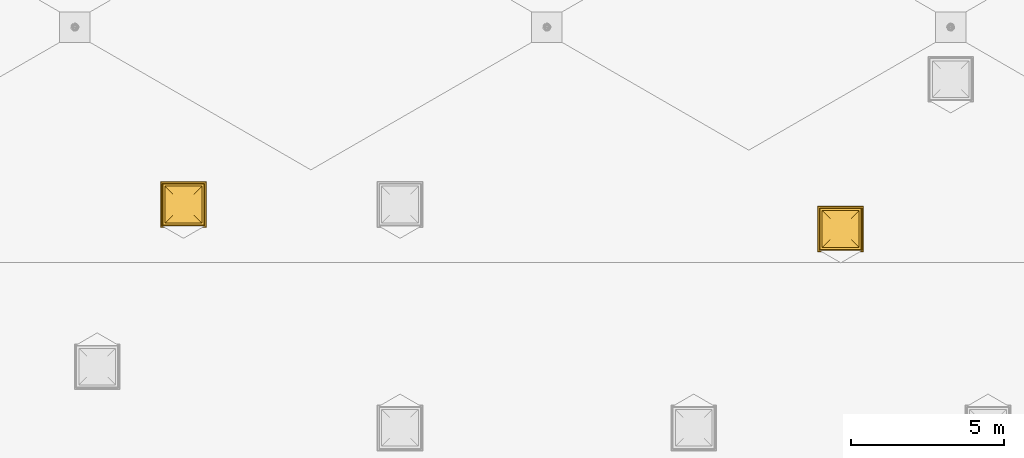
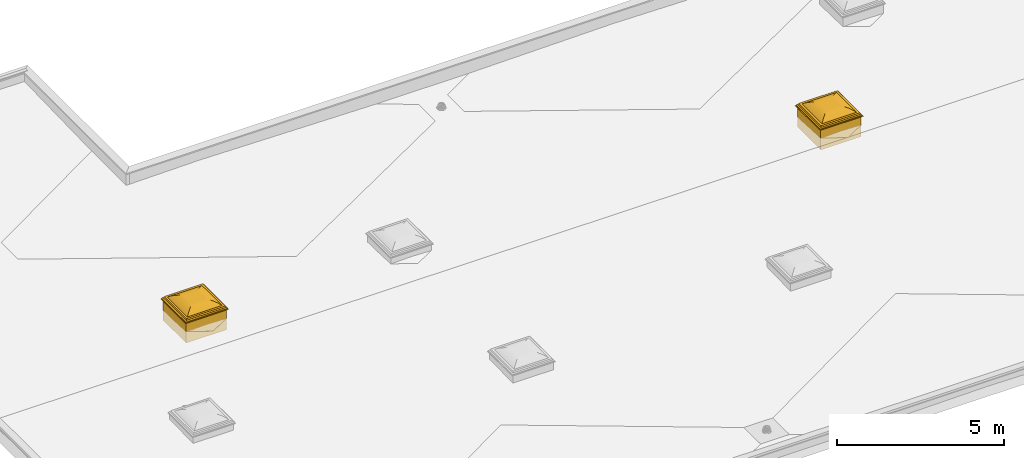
# One storey, part 4 of 5: 2 windows.
"""IFC2X3 building model written with IfcOpenShell, lengths in millimetres."""

from ifc_helpers import new_model, entity, si_unit, converted_unit, derived_unit, direction, frame, origin, place, context, subcontext, project, spatial, faceted_brep, source, transform, mapped, material, material_list, type_object, type_shapes, element, save


model = new_model("IFC2X3")

# Units and contexts
model_context = context("Model", 3, precision=0.01, world=origin(), true_north=direction((6.12303176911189e-17, 1.0)))
body_context = subcontext(model_context, "Body", "Model", "MODEL_VIEW")
ifc_project = project(units=[si_unit("LENGTHUNIT", "METRE", prefix="MILLI"), si_unit("AREAUNIT", "SQUARE_METRE"), si_unit("VOLUMEUNIT", "CUBIC_METRE"), converted_unit("PLANEANGLEUNIT", "DEGREE", entity("IfcRatioMeasure", 0.0174532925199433), si_unit("PLANEANGLEUNIT", "RADIAN"), dimensions=[0, 0, 0, 0, 0, 0, 0]), si_unit("MASSUNIT", "GRAM", prefix="KILO"), derived_unit("MASSDENSITYUNIT", [(si_unit("MASSUNIT", "GRAM", prefix="KILO"), 1), (si_unit("LENGTHUNIT", "METRE"), -3)]), si_unit("TIMEUNIT", "SECOND"), si_unit("FREQUENCYUNIT", "HERTZ"), si_unit("THERMODYNAMICTEMPERATUREUNIT", "DEGREE_CELSIUS"), derived_unit("THERMALTRANSMITTANCEUNIT", [(si_unit("MASSUNIT", "GRAM", prefix="KILO"), 1), (si_unit("THERMODYNAMICTEMPERATUREUNIT", "KELVIN"), -1), (si_unit("TIMEUNIT", "SECOND"), -3)]), derived_unit("VOLUMETRICFLOWRATEUNIT", [(si_unit("LENGTHUNIT", "METRE"), 3), (si_unit("TIMEUNIT", "SECOND"), -1)]), si_unit("ELECTRICCURRENTUNIT", "AMPERE"), si_unit("ELECTRICVOLTAGEUNIT", "VOLT"), si_unit("POWERUNIT", "WATT"), si_unit("FORCEUNIT", "NEWTON", prefix="KILO"), si_unit("ILLUMINANCEUNIT", "LUX"), si_unit("LUMINOUSFLUXUNIT", "LUMEN"), si_unit("LUMINOUSINTENSITYUNIT", "CANDELA"), derived_unit("USERDEFINED", [(si_unit("MASSUNIT", "GRAM", prefix="KILO"), -1), (si_unit("LENGTHUNIT", "METRE"), -2), (si_unit("TIMEUNIT", "SECOND"), 3), (si_unit("LUMINOUSFLUXUNIT", "LUMEN"), 1)]), derived_unit("LINEARVELOCITYUNIT", [(si_unit("LENGTHUNIT", "METRE"), 1), (si_unit("TIMEUNIT", "SECOND"), -1)]), si_unit("PRESSUREUNIT", "PASCAL"), derived_unit("USERDEFINED", [(si_unit("LENGTHUNIT", "METRE"), -2), (si_unit("MASSUNIT", "GRAM", prefix="KILO"), 1), (si_unit("TIMEUNIT", "SECOND"), -2)])], contexts=[model_context])

# Site, building, storey
site_placement = place(None, origin())
site = spatial("IfcSite", under=ifc_project, at=site_placement, Name="Default", CompositionType="ELEMENT")
building_placement = place(site_placement, origin())
building = spatial("IfcBuilding", under=site, at=building_placement, CompositionType="ELEMENT")
storey_placement = place(building_placement, frame((0.0, 0.0, 8000.0)))
storey = spatial("IfcBuildingStorey", under=building, at=storey_placement, Name="KATUS", CompositionType="ELEMENT", Elevation=8000.0)

# Windows
ifc_material_1 = material(Name="akrüül-klaas, 3-kihiline")
ifc_material_2 = material(Name="soojustatud teras-jalam")
ifc_material_list_1 = material_list([ifc_material_1, ifc_material_2])
ifc_material_list_2 = material_list([ifc_material_1, ifc_material_2])
window_style_1 = type_object("IfcWindowStyle", Name="SL02_suitsuluuk 1200x1200 katuselepääs", ConstructionType="NOTDEFINED", OperationType="NOTDEFINED", ParameterTakesPrecedence=False, Sizeable=False, material=ifc_material_list_2)
shared_shape_1 = source(origin(), body_context, "Body", "Brep", [
    faceted_brep([(281.700000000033, -281.700000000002, 779.910168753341), (281.700000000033, -281.700000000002, 773.560168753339), (281.700000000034, 281.700000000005, 773.560168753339), (281.700000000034, 281.700000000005, 779.910168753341), (-281.699999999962, -281.700000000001, 779.910168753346), (-281.699999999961, 281.700000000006, 779.910168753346), (-281.699999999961, 281.700000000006, 773.560168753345), (-281.699999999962, -281.700000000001, 773.560168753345)], [[[0, 1, 2, 3]], [[4, 5, 6, 7]], [[1, 0, 4, 7]], [[2, 1, 7, 6]], [[3, 2, 6, 5]], [[0, 3, 5, 4]]]),
    faceted_brep([(-599.19999999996, -599.2, 609.927298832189), (-599.19999999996, -599.199999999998, 635.0), (-599.19999999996, 599.200000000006, 635.0), (-599.19999999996, 599.200000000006, 609.927298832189), (-281.699999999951, -281.699999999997, 779.910168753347), (-281.69999999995, 281.699999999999, 779.910168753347), (-350.823937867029, 350.823937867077, 765.296429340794), (-350.823937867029, -350.823937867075, 765.296429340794), (-417.927749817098, 417.927749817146, 743.188544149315), (-417.927749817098, -417.927749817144, 743.188544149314), (-482.201579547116, 482.201579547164, 713.853326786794), (-482.201579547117, -482.201579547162, 713.853326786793), (-542.869724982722, 542.86972498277, 677.64481542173), (-542.869724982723, -542.869724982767, 677.644815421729), (599.200000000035, 599.200000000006, 635.0), (599.200000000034, 599.200000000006, 609.927298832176), (281.700000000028, 281.699999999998, 779.910168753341), (350.823937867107, 350.823937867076, 765.296429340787), (417.927749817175, 417.927749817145, 743.188544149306), (482.201579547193, 482.201579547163, 713.853326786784), (542.869724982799, 542.869724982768, 677.644815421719), (599.200000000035, -599.2, 635.0), (599.200000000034, -599.2, 609.927298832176), (281.700000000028, -281.699999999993, 779.910168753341), (350.823937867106, -350.823937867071, 765.296429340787), (417.927749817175, -417.92774981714, 743.188544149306), (482.201579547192, -482.201579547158, 713.853326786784), (542.869724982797, -542.869724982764, 677.644815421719), (-593.576133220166, -593.576133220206, 633.360547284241), (-593.576133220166, -593.576133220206, 609.927298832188), (-593.576133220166, 593.576133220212, 609.927298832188), (-593.576133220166, 593.576133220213, 633.360547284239), (-537.988117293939, -537.98811729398, 674.552576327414), (-537.988117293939, 537.988117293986, 674.552576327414), (-478.296763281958, -478.296763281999, 709.534757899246), (-478.296763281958, 478.296763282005, 709.534757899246), (-415.192902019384, 415.192902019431, 737.902229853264), (-415.192902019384, -415.192902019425, 737.902229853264), (-349.40685859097, -349.406858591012, 759.326684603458), (-349.40685859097, 349.406858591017, 759.326684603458), (-281.699999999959, -281.700000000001, 773.560168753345), (-281.699999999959, 281.700000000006, 773.560168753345), (593.57613322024, 593.576133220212, 609.927298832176), (593.576133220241, 593.576133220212, 633.360547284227), (537.988117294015, 537.988117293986, 674.552576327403), (478.296763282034, 478.296763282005, 709.534757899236), (415.192902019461, 415.192902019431, 737.902229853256), (349.406858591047, 349.406858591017, 759.326684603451), (281.700000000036, 281.700000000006, 773.560168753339), (593.57613322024, -593.576133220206, 609.927298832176), (593.576133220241, -593.576133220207, 633.360547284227), (537.988117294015, -537.98811729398, 674.552576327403), (478.296763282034, -478.296763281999, 709.534757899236), (415.192902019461, -415.192902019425, 737.902229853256), (349.406858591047, -349.406858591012, 759.326684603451), (281.700000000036, -281.700000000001, 773.560168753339)], [[[0, 1, 2, 3]], [[4, 5, 6, 7]], [[7, 6, 8, 9]], [[8, 10, 11, 9]], [[11, 10, 12, 13]], [[13, 12, 2, 1]], [[3, 2, 14, 15]], [[5, 16, 17, 6]], [[6, 17, 18, 8]], [[18, 19, 10, 8]], [[10, 19, 20, 12]], [[12, 20, 14, 2]], [[15, 14, 21, 22]], [[16, 23, 24, 17]], [[17, 24, 25, 18]], [[25, 26, 19, 18]], [[19, 26, 27, 20]], [[20, 27, 21, 14]], [[22, 21, 1, 0]], [[23, 4, 7, 24]], [[24, 7, 9, 25]], [[9, 11, 26, 25]], [[26, 11, 13, 27]], [[27, 13, 1, 21]], [[28, 29, 30, 31]], [[32, 28, 31, 33]], [[34, 32, 33, 35]], [[35, 36, 37, 34]], [[38, 37, 36, 39]], [[40, 38, 39, 41]], [[4, 40, 41, 5]], [[31, 30, 42, 43]], [[33, 31, 43, 44]], [[35, 33, 44, 45]], [[45, 46, 36, 35]], [[39, 36, 46, 47]], [[41, 39, 47, 48]], [[5, 41, 48, 16]], [[43, 42, 49, 50]], [[44, 43, 50, 51]], [[45, 44, 51, 52]], [[52, 53, 46, 45]], [[47, 46, 53, 54]], [[48, 47, 54, 55]], [[16, 48, 55, 23]], [[22, 49, 42]], [[49, 22, 29]], [[42, 15, 22]], [[0, 29, 22]], [[29, 0, 30]], [[3, 30, 0]], [[30, 3, 15]], [[15, 42, 30]], [[50, 49, 29, 28]], [[51, 50, 28, 32]], [[52, 51, 32, 34]], [[34, 37, 53, 52]], [[54, 53, 37, 38]], [[55, 54, 38, 40]], [[23, 55, 40, 4]]]),
    faceted_brep([(695.200000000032, 695.200000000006, 593.0), (670.951288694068, 670.951288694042, 635.0), (670.951288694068, -670.951288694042, 635.0), (695.200000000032, -695.200000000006, 593.0), (655.200000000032, 655.200000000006, 565.0), (655.200000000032, 655.200000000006, 593.0), (655.200000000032, -655.200000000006, 593.0), (655.200000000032, -655.200000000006, 565.0), (730.200000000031, 730.200000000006, 542.0), (730.200000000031, 730.200000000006, 565.0), (730.200000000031, -730.200000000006, 565.0), (730.200000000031, -730.200000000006, 542.0), (748.221344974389, 748.221344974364, 529.381318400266), (748.221344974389, -748.221344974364, 529.381318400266), (746.989806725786, 746.989806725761, 528.149780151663), (746.989806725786, -746.989806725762, 528.149780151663), (727.20964285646, 727.209642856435, 542.0), (727.20964285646, -727.209642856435, 542.0), (699.200000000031, 699.200000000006, 525.0), (699.200000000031, 699.200000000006, 542.0), (699.200000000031, -699.200000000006, 542.0), (699.200000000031, -699.200000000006, 525.0), (599.200000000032, 599.200000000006, 635.0), (599.200000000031, 599.200000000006, 525.0), (599.200000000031, -599.200000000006, 525.0), (599.200000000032, -599.200000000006, 635.0), (-670.951288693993, -670.951288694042, 635.0), (-695.199999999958, -695.200000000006, 593.0), (-655.199999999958, -655.200000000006, 593.0), (-655.199999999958, -655.200000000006, 565.0), (-730.199999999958, -730.200000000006, 565.0), (-730.199999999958, -730.200000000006, 542.0), (-748.221344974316, -748.221344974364, 529.381318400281), (-746.989806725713, -746.989806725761, 528.149780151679), (-727.209642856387, -727.209642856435, 542.0), (-699.199999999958, -699.200000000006, 542.0), (-699.199999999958, -699.200000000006, 525.0), (-599.199999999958, -599.200000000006, 525.0), (-599.199999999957, -599.200000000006, 635.0), (-670.951288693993, 670.951288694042, 635.0), (-695.199999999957, 695.200000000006, 593.0), (-655.199999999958, 655.200000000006, 593.0), (-655.199999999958, 655.200000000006, 565.0), (-730.199999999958, 730.200000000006, 565.0), (-730.199999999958, 730.200000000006, 542.0), (-748.221344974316, 748.221344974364, 529.381318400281), (-746.989806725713, 746.989806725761, 528.149780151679), (-727.209642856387, 727.209642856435, 542.0), (-699.199999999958, 699.200000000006, 542.0), (-699.199999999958, 699.200000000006, 525.0), (-599.199999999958, 599.200000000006, 525.0), (-599.199999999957, 599.200000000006, 635.0)], [[[0, 1, 2, 3]], [[4, 5, 6, 7]], [[8, 9, 10, 11]], [[12, 8, 11, 13]], [[14, 12, 13, 15]], [[16, 14, 15, 17]], [[18, 19, 20, 21]], [[22, 23, 24, 25]], [[3, 2, 26, 27]], [[7, 6, 28, 29]], [[11, 10, 30, 31]], [[13, 11, 31, 32]], [[15, 13, 32, 33]], [[17, 15, 33, 34]], [[21, 20, 35, 36]], [[25, 24, 37, 38]], [[27, 26, 39, 40]], [[29, 28, 41, 42]], [[31, 30, 43, 44]], [[32, 31, 44, 45]], [[33, 32, 45, 46]], [[34, 33, 46, 47]], [[36, 35, 48, 49]], [[38, 37, 50, 51]], [[25, 38, 51, 22], [1, 39, 26, 2]], [[40, 39, 1, 0]], [[3, 27, 40, 0], [5, 41, 28, 6]], [[42, 41, 5, 4]], [[7, 29, 42, 4], [9, 43, 30, 10]], [[44, 43, 9, 8]], [[45, 44, 8, 12]], [[46, 45, 12, 14]], [[47, 46, 14, 16]], [[17, 34, 47, 16], [19, 48, 35, 20]], [[49, 48, 19, 18]], [[21, 36, 49, 18], [23, 50, 37, 24]], [[51, 50, 23, 22]]], outer=[[True], [True], [True], [True], [True], [True], [True], [True], [True], [True], [True], [True], [True], [True], [True], [True], [True], [True], [True], [True], [True], [True], [True], [True], [False, True], [True], [True, False], [True], [False, True], [True], [True], [True], [True], [True, False], [True], [True, False], [True]]),
    faceted_brep([(-600.0, 600.0, 525.0), (-600.0, 600.0, -225.0), (600.0, 600.0, -225.0), (600.0, 600.0, 525.0), (600.0, -600.0, -225.0), (600.0, -600.0, 525.0), (-600.0, -600.0, -225.0), (-600.0, -600.0, 525.0), (700.0, 700.0, -225.0), (700.0, -700.0, -225.0), (-700.0, -700.0, -225.0), (-700.0, 700.0, -225.0), (-700.0, 700.0, 525.0), (700.0, 700.0, 525.0), (700.0, -700.0, 525.0), (-700.0, -700.0, 525.0)], [[[0, 1, 2, 3]], [[3, 2, 4, 5]], [[5, 4, 6, 7]], [[7, 6, 1, 0]], [[1, 6, 4, 2], [8, 9, 10, 11]], [[11, 12, 13, 8]], [[8, 13, 14, 9]], [[9, 14, 15, 10]], [[3, 5, 7, 0], [12, 15, 14, 13]], [[10, 15, 12, 11]]], outer=[[True], [True], [True], [True], [False, True], [True], [True], [True], [False, True], [True]]),
])
type_shapes(window_style_1, [shared_shape_1])
window_1_placement = place(storey_placement, frame((29279.9978270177, 14000.0, 220.0)))
element("IfcWindow", 1, at=window_1_placement, inside=storey, type_object=window_style_1, material=ifc_material_list_1, Name="Suitsueemaldusluuk:SL02_suitsuluuk 1200x1200 katuselepääs", ObjectType="SL02_suitsuluuk 1200x1200 katuselepääs", OverallHeight=1311.0999999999, OverallWidth=1496.44268994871, context=body_context, shape_type="MappedRepresentation", body=[
    mapped(shared_shape_1, transform((0.0, 0.0, 0.0), scale=1.0)),
])
ifc_material_list_3 = material_list([ifc_material_1, ifc_material_2])
ifc_material_list_4 = material_list([ifc_material_1, ifc_material_2])
window_style_2 = type_object("IfcWindowStyle", Name="SL01_suitsuluuk 1200x1200", ConstructionType="NOTDEFINED", OperationType="NOTDEFINED", ParameterTakesPrecedence=False, Sizeable=False, material=ifc_material_list_4)
shared_shape_2 = source(origin(), body_context, "Body", "Brep", [
    faceted_brep([(281.700000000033, -281.700000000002, 754.910168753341), (281.700000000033, -281.700000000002, 748.560168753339), (281.700000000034, 281.700000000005, 748.560168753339), (281.700000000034, 281.700000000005, 754.910168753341), (-281.699999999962, -281.700000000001, 754.910168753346), (-281.699999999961, 281.700000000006, 754.910168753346), (-281.699999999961, 281.700000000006, 748.560168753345), (-281.699999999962, -281.700000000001, 748.560168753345)], [[[0, 1, 2, 3]], [[4, 5, 6, 7]], [[1, 0, 4, 7]], [[2, 1, 7, 6]], [[3, 2, 6, 5]], [[0, 3, 5, 4]]]),
    faceted_brep([(-599.19999999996, -599.2, 584.927298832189), (-599.19999999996, -599.199999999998, 610.0), (-599.19999999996, 599.200000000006, 610.0), (-599.19999999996, 599.200000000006, 584.927298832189), (-281.699999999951, -281.699999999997, 754.910168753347), (-281.69999999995, 281.699999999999, 754.910168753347), (-350.823937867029, 350.823937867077, 740.296429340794), (-350.823937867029, -350.823937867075, 740.296429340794), (-417.927749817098, 417.927749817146, 718.188544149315), (-417.927749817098, -417.927749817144, 718.188544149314), (-482.201579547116, 482.201579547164, 688.853326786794), (-482.201579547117, -482.201579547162, 688.853326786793), (-542.869724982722, 542.86972498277, 652.64481542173), (-542.869724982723, -542.869724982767, 652.644815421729), (599.200000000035, 599.200000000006, 610.0), (599.200000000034, 599.200000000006, 584.927298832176), (281.700000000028, 281.699999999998, 754.910168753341), (350.823937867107, 350.823937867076, 740.296429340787), (417.927749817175, 417.927749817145, 718.188544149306), (482.201579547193, 482.201579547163, 688.853326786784), (542.869724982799, 542.869724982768, 652.644815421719), (599.200000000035, -599.2, 610.0), (599.200000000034, -599.2, 584.927298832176), (281.700000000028, -281.699999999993, 754.910168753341), (350.823937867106, -350.823937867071, 740.296429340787), (417.927749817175, -417.92774981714, 718.188544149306), (482.201579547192, -482.201579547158, 688.853326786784), (542.869724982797, -542.869724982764, 652.644815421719), (-593.576133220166, -593.576133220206, 608.360547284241), (-593.576133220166, -593.576133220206, 584.927298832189), (-593.576133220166, 593.576133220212, 584.927298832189), (-593.576133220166, 593.576133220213, 608.360547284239), (-537.988117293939, -537.98811729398, 649.552576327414), (-537.988117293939, 537.988117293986, 649.552576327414), (-478.296763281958, -478.296763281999, 684.534757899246), (-478.296763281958, 478.296763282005, 684.534757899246), (-415.192902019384, 415.192902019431, 712.902229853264), (-415.192902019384, -415.192902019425, 712.902229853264), (-349.40685859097, -349.406858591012, 734.326684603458), (-349.40685859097, 349.406858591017, 734.326684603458), (-281.699999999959, -281.700000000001, 748.560168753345), (-281.699999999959, 281.700000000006, 748.560168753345), (593.57613322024, 593.576133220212, 584.927298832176), (593.576133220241, 593.576133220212, 608.360547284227), (537.988117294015, 537.988117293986, 649.552576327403), (478.296763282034, 478.296763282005, 684.534757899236), (415.192902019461, 415.192902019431, 712.902229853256), (349.406858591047, 349.406858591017, 734.326684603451), (281.700000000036, 281.700000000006, 748.560168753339), (593.57613322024, -593.576133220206, 584.927298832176), (593.576133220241, -593.576133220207, 608.360547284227), (537.988117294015, -537.98811729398, 649.552576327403), (478.296763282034, -478.296763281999, 684.534757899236), (415.192902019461, -415.192902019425, 712.902229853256), (349.406858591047, -349.406858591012, 734.326684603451), (281.700000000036, -281.700000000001, 748.560168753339)], [[[0, 1, 2, 3]], [[4, 5, 6, 7]], [[7, 6, 8, 9]], [[8, 10, 11, 9]], [[11, 10, 12, 13]], [[13, 12, 2, 1]], [[3, 2, 14, 15]], [[5, 16, 17, 6]], [[6, 17, 18, 8]], [[18, 19, 10, 8]], [[10, 19, 20, 12]], [[12, 20, 14, 2]], [[15, 14, 21, 22]], [[16, 23, 24, 17]], [[17, 24, 25, 18]], [[25, 26, 19, 18]], [[19, 26, 27, 20]], [[20, 27, 21, 14]], [[22, 21, 1, 0]], [[23, 4, 7, 24]], [[24, 7, 9, 25]], [[9, 11, 26, 25]], [[26, 11, 13, 27]], [[27, 13, 1, 21]], [[28, 29, 30, 31]], [[32, 28, 31, 33]], [[34, 32, 33, 35]], [[35, 36, 37, 34]], [[38, 37, 36, 39]], [[40, 38, 39, 41]], [[4, 40, 41, 5]], [[31, 30, 42, 43]], [[33, 31, 43, 44]], [[35, 33, 44, 45]], [[45, 46, 36, 35]], [[39, 36, 46, 47]], [[41, 39, 47, 48]], [[5, 41, 48, 16]], [[43, 42, 49, 50]], [[44, 43, 50, 51]], [[45, 44, 51, 52]], [[52, 53, 46, 45]], [[47, 46, 53, 54]], [[48, 47, 54, 55]], [[16, 48, 55, 23]], [[22, 49, 42]], [[49, 22, 29]], [[42, 15, 22]], [[0, 29, 22]], [[29, 0, 30]], [[3, 30, 0]], [[30, 3, 15]], [[15, 42, 30]], [[50, 49, 29, 28]], [[51, 50, 28, 32]], [[52, 51, 32, 34]], [[34, 37, 53, 52]], [[54, 53, 37, 38]], [[55, 54, 38, 40]], [[23, 55, 40, 4]]]),
    faceted_brep([(695.200000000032, 695.200000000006, 568.0), (670.951288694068, 670.951288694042, 610.0), (670.951288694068, -670.951288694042, 610.0), (695.200000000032, -695.200000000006, 568.0), (655.200000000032, 655.200000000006, 540.0), (655.200000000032, 655.200000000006, 568.0), (655.200000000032, -655.200000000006, 568.0), (655.200000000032, -655.200000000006, 540.0), (730.200000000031, 730.200000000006, 517.0), (730.200000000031, 730.200000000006, 540.0), (730.200000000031, -730.200000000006, 540.0), (730.200000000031, -730.200000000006, 517.0), (748.221344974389, 748.221344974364, 504.381318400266), (748.221344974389, -748.221344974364, 504.381318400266), (746.989806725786, 746.989806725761, 503.149780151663), (746.989806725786, -746.989806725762, 503.149780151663), (727.20964285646, 727.209642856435, 517.0), (727.20964285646, -727.209642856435, 517.0), (699.200000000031, 699.200000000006, 500.0), (699.200000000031, 699.200000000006, 517.0), (699.200000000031, -699.200000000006, 517.0), (699.200000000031, -699.200000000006, 500.0), (599.200000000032, 599.200000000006, 610.0), (599.200000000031, 599.200000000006, 500.0), (599.200000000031, -599.200000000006, 500.0), (599.200000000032, -599.200000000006, 610.0), (-670.951288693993, -670.951288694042, 610.0), (-695.199999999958, -695.200000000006, 568.0), (-655.199999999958, -655.200000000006, 568.0), (-655.199999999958, -655.200000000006, 540.0), (-730.199999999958, -730.200000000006, 540.0), (-730.199999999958, -730.200000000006, 517.0), (-748.221344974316, -748.221344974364, 504.381318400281), (-746.989806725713, -746.989806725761, 503.149780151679), (-727.209642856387, -727.209642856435, 517.0), (-699.199999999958, -699.200000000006, 517.0), (-699.199999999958, -699.200000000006, 500.0), (-599.199999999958, -599.200000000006, 500.0), (-599.199999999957, -599.200000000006, 610.0), (-670.951288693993, 670.951288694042, 610.0), (-695.199999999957, 695.200000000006, 568.0), (-655.199999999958, 655.200000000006, 568.0), (-655.199999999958, 655.200000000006, 540.0), (-730.199999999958, 730.200000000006, 540.0), (-730.199999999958, 730.200000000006, 517.0), (-748.221344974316, 748.221344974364, 504.381318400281), (-746.989806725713, 746.989806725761, 503.149780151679), (-727.209642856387, 727.209642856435, 517.0), (-699.199999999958, 699.200000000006, 517.0), (-699.199999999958, 699.200000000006, 500.0), (-599.199999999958, 599.200000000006, 500.0), (-599.199999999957, 599.200000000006, 610.0)], [[[0, 1, 2, 3]], [[4, 5, 6, 7]], [[8, 9, 10, 11]], [[12, 8, 11, 13]], [[14, 12, 13, 15]], [[16, 14, 15, 17]], [[18, 19, 20, 21]], [[22, 23, 24, 25]], [[3, 2, 26, 27]], [[7, 6, 28, 29]], [[11, 10, 30, 31]], [[13, 11, 31, 32]], [[15, 13, 32, 33]], [[17, 15, 33, 34]], [[21, 20, 35, 36]], [[25, 24, 37, 38]], [[27, 26, 39, 40]], [[29, 28, 41, 42]], [[31, 30, 43, 44]], [[32, 31, 44, 45]], [[33, 32, 45, 46]], [[34, 33, 46, 47]], [[36, 35, 48, 49]], [[38, 37, 50, 51]], [[25, 38, 51, 22], [1, 39, 26, 2]], [[40, 39, 1, 0]], [[3, 27, 40, 0], [5, 41, 28, 6]], [[42, 41, 5, 4]], [[7, 29, 42, 4], [9, 43, 30, 10]], [[44, 43, 9, 8]], [[45, 44, 8, 12]], [[46, 45, 12, 14]], [[47, 46, 14, 16]], [[17, 34, 47, 16], [19, 48, 35, 20]], [[49, 48, 19, 18]], [[21, 36, 49, 18], [23, 50, 37, 24]], [[51, 50, 23, 22]]], outer=[[True], [True], [True], [True], [True], [True], [True], [True], [True], [True], [True], [True], [True], [True], [True], [True], [True], [True], [True], [True], [True], [True], [True], [True], [False, True], [True], [True, False], [True], [False, True], [True], [True], [True], [True], [True, False], [True], [True, False], [True]]),
    faceted_brep([(-600.0, 600.0, 500.0), (-600.0, 600.0, -250.0), (600.0, 600.0, -250.0), (600.0, 600.0, 500.0), (600.0, -600.0, -250.0), (600.0, -600.0, 500.0), (-600.0, -600.0, -250.0), (-600.0, -600.0, 500.0), (700.0, 700.0, -250.0), (700.0, -700.0, -250.0), (-700.0, -700.0, -250.0), (-700.0, 700.0, -250.0), (-700.0, 700.0, 500.0), (700.0, 700.0, 500.0), (700.0, -700.0, 500.0), (-700.0, -700.0, 500.0)], [[[0, 1, 2, 3]], [[3, 2, 4, 5]], [[5, 4, 6, 7]], [[7, 6, 1, 0]], [[1, 6, 4, 2], [8, 9, 10, 11]], [[11, 12, 13, 8]], [[8, 13, 14, 9]], [[9, 14, 15, 10]], [[3, 5, 7, 0], [12, 15, 14, 13]], [[10, 15, 12, 11]]], outer=[[True], [True], [True], [True], [False, True], [True], [True], [True], [False, True], [True]]),
])
type_shapes(window_style_2, [shared_shape_2])
window_2_placement = place(storey_placement, frame((7800.0, 14800.0, 220.0)))
element("IfcWindow", 2, at=window_2_placement, inside=storey, type_object=window_style_2, material=ifc_material_list_3, Name="Suitsueemaldusluuk:SL01_suitsuluuk 1200x1200", ObjectType="SL01_suitsuluuk 1200x1200", OverallHeight=1336.0999999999, OverallWidth=1496.44268994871, context=body_context, shape_type="MappedRepresentation", body=[
    mapped(shared_shape_2, transform((0.0, 0.0, 0.0), scale=1.0)),
])

save(model, "model.ifc")
